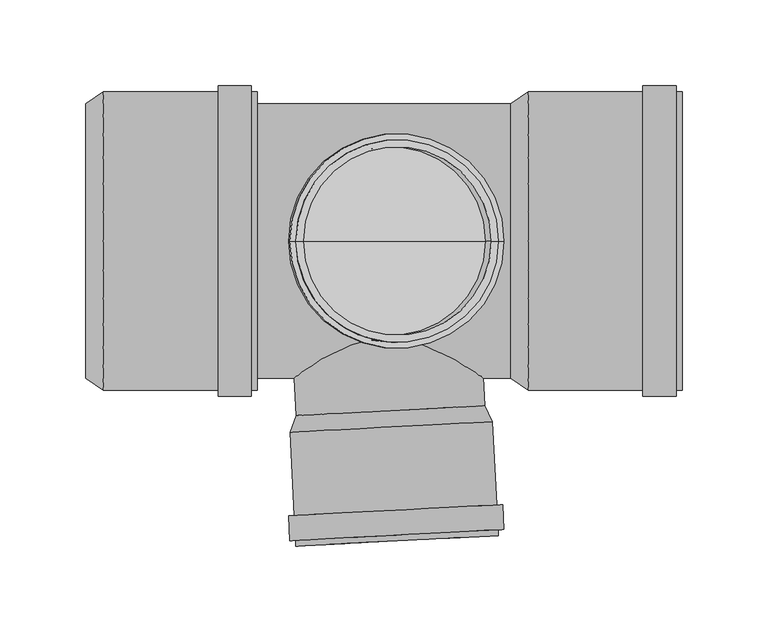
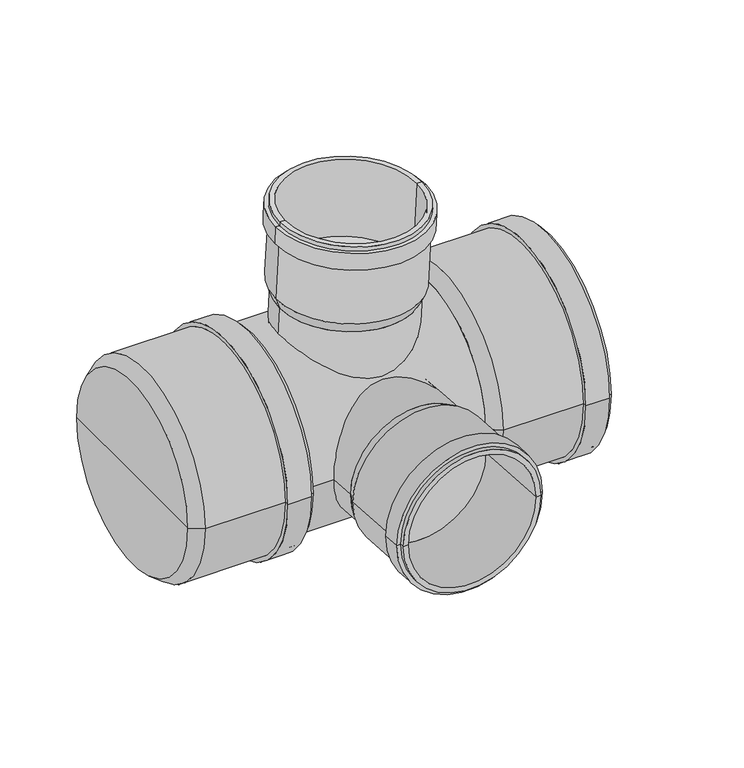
"""IFC4 building model written with IfcOpenShell, lengths in millimetres: pipe fitting geometry, pf_HTED : pf_HTED."""

from ifc_helpers import new_model, si_unit, point, frame, origin, origin_2d, place, context, project, spatial, polyline, circle_curve, trimmed, segment, composite_curve, outline, extrude, source, transform, mapped, element, save
from ifc_brep_helpers import plane_surface, cylinder_surface, revolved_surface, advanced_brep


def pipe_fitting_2de2056f(model_context):
    return source(origin(), model_context, "Body", "SolidModel", [
        advanced_brep(
        [(60.1058841, 0.0, 95.9858463), (-49.7433647, 0.0, 101.7428015), (-53.3405543, 0.0, 111.4443595), (64.6974568, 0.0, 105.2582495), (5.1812597, 0.0, 98.8643239), (68.1777978, 0.0, 171.6671136), (-49.8602132, 0.0, 177.8532236), (-45.7658321, 0.0, 177.6386462), (64.0834168, 0.0, 171.881691), (67.9998556, 0.0, 168.2717731), (-50.0381554, 0.0, 174.4578832), (71.395196, 0.0, 168.0938309), (-53.4334958, 0.0, 174.6358254), (70.6363246, 0.0, 153.6137026), (-54.1923672, 0.0, 160.1556972), (67.2409842, 0.0, 153.7916449), (-50.7970268, 0.0, 159.9777549), (60.6030757, 0.0, 105.4728269), (-49.2461732, 0.0, 111.2297821), (5.6784513, 0.0, 108.3513045)],
        [
            (0, 1, circle_curve(frame((5.1812597, 0.0, 98.8643239), z_axis=(0.052335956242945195, 0.0, 0.9986295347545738), x_axis=(-0.9986295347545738, 0.0, 0.052335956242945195)), 55.0)),
            (1, 2),
            (2, 3, circle_curve(frame((5.6784513, 0.0, 108.3513045), z_axis=(-0.052335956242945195, 0.0, -0.9986295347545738), x_axis=(-0.9986295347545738, 0.0, 0.052335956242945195)), 59.1)),
            (3, 0),
            (1, 0, circle_curve(frame((5.1812597, 0.0, 98.8643239), z_axis=(0.052335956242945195, 0.0, 0.9986295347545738), x_axis=(-0.9986295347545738, 0.0, 0.052335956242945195)), 55.0)),
            (3, 2, circle_curve(frame((5.6784513, 0.0, 108.3513045), z_axis=(-0.052335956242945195, 0.0, -0.9986295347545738), x_axis=(-0.9986295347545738, 0.0, 0.052335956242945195)), 59.1)),
            (4, 1),
            (0, 4),
            (5, 6, circle_curve(frame((9.1587923, 0.0, 174.7601686), z_axis=(0.052335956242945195, 0.0, 0.9986295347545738), x_axis=(-0.9986295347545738, 0.0, 0.052335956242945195)), 59.1)),
            (6, 7),
            (7, 8, circle_curve(frame((9.1587923, 0.0, 174.7601686), z_axis=(-0.052335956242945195, 0.0, -0.9986295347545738), x_axis=(-0.9986295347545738, 0.0, 0.052335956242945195)), 55.0)),
            (8, 5),
            (6, 5, circle_curve(frame((9.1587923, 0.0, 174.7601686), z_axis=(0.052335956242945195, 0.0, 0.9986295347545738), x_axis=(-0.9986295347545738, 0.0, 0.052335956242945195)), 59.1)),
            (8, 7, circle_curve(frame((9.1587923, 0.0, 174.7601686), z_axis=(-0.052335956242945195, 0.0, -0.9986295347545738), x_axis=(-0.9986295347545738, 0.0, 0.052335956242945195)), 55.0)),
            (9, 10, circle_curve(frame((8.9808501, 0.0, 171.3648282), z_axis=(0.052335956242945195, 0.0, 0.9986295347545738), x_axis=(-0.9986295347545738, 0.0, 0.052335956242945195)), 59.1)),
            (10, 6),
            (5, 9),
            (10, 9, circle_curve(frame((8.9808501, 0.0, 171.3648282), z_axis=(0.052335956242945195, 0.0, 0.9986295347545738), x_axis=(-0.9986295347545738, 0.0, 0.052335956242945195)), 59.1)),
            (11, 12, circle_curve(frame((8.9808501, 0.0, 171.3648282), z_axis=(0.052335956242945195, 0.0, 0.9986295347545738), x_axis=(-0.9986295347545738, 0.0, 0.052335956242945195)), 62.5)),
            (12, 10),
            (9, 11),
            (12, 11, circle_curve(frame((8.9808501, 0.0, 171.3648282), z_axis=(0.052335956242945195, 0.0, 0.9986295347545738), x_axis=(-0.9986295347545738, 0.0, 0.052335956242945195)), 62.5)),
            (13, 14, circle_curve(frame((8.2219787, 0.0, 156.8846999), z_axis=(0.052335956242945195, 0.0, 0.9986295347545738), x_axis=(-0.9986295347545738, 0.0, 0.052335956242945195)), 62.5)),
            (14, 12),
            (11, 13),
            (14, 13, circle_curve(frame((8.2219787, 0.0, 156.8846999), z_axis=(0.052335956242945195, 0.0, 0.9986295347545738), x_axis=(-0.9986295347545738, 0.0, 0.052335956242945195)), 62.5)),
            (15, 16, circle_curve(frame((8.2219787, 0.0, 156.8846999), z_axis=(0.052335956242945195, 0.0, 0.9986295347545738), x_axis=(-0.9986295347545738, 0.0, 0.052335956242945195)), 59.1)),
            (16, 14),
            (13, 15),
            (16, 15, circle_curve(frame((8.2219787, 0.0, 156.8846999), z_axis=(0.052335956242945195, 0.0, 0.9986295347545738), x_axis=(-0.9986295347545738, 0.0, 0.052335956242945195)), 59.1)),
            (2, 16),
            (15, 3),
            (17, 18, circle_curve(frame((5.6784513, 0.0, 108.3513045), z_axis=(0.052335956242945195, 0.0, 0.9986295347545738), x_axis=(-0.9986295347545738, 0.0, 0.052335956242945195)), 55.0)),
            (18, 19),
            (19, 17),
            (18, 17, circle_curve(frame((5.6784513, 0.0, 108.3513045), z_axis=(0.052335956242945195, 0.0, 0.9986295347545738), x_axis=(-0.9986295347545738, 0.0, 0.052335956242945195)), 55.0)),
            (7, 18),
            (17, 8),
        ],
        [
            revolved_surface(polyline([(-53.3405543, 0.0, 111.4443595), (-49.7433647, 0.0, 101.7428015)]), (5.1812597, 0.0, 98.8643239), (-0.052335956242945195, 0.0, -0.9986295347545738)),
            plane_surface(frame((5.1812597, 0.0, 98.8643239), z_axis=(-0.052335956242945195, 0.0, -0.9986295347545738), x_axis=(-0.9986295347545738, 0.0, 0.052335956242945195))),
            plane_surface(frame((9.1587923, 0.0, 174.7601686), z_axis=(0.052335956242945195, 0.0, 0.9986295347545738), x_axis=(-0.9986295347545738, 0.0, 0.052335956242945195))),
            cylinder_surface(frame((5.1812597, 0.0, 98.8643239), z_axis=(-0.052335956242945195, 0.0, -0.9986295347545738), x_axis=(-0.9986295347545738, 0.0, 0.052335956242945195)), 59.1),
            plane_surface(frame((8.9808501, 0.0, 171.3648282), z_axis=(0.052335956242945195, 0.0, 0.9986295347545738), x_axis=(-0.9986295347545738, 0.0, 0.052335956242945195))),
            cylinder_surface(frame((5.1812597, 0.0, 98.8643239), z_axis=(-0.052335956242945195, 0.0, -0.9986295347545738), x_axis=(-0.9986295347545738, 0.0, 0.052335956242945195)), 62.5),
            plane_surface(frame((8.2219787, 0.0, 156.8846999), z_axis=(-0.052335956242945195, 0.0, -0.9986295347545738), x_axis=(-0.9986295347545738, 0.0, 0.052335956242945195))),
            plane_surface(frame((5.6784513, 0.0, 108.3513045), z_axis=(0.052335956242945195, 0.0, 0.9986295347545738), x_axis=(-0.9986295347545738, 0.0, 0.052335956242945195))),
            revolved_surface(polyline([(-49.24617312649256, 0.0, 111.22978208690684), (-45.765832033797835, 0.0, 177.6386461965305)]), (5.1812597, 0.0, 98.8643239), (-0.052335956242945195, 0.0, -0.9986295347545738)),
        ],
        [
            (0, [[1, 2, 3, 4]]),
            (0, [[5, -4, 6, -2]]),
            (1, [[7, -1, 8]]),
            (1, [[-8, -5, -7]]),
            (2, [[9, 10, 11, 12]]),
            (2, [[13, -12, 14, -10]]),
            (3, [[15, 16, -9, 17]]),
            (3, [[18, -17, -13, -16]]),
            (4, [[19, 20, -15, 21]]),
            (4, [[22, -21, -18, -20]]),
            (5, [[23, 24, -19, 25]]),
            (5, [[26, -25, -22, -24]]),
            (6, [[27, 28, -23, 29]]),
            (6, [[30, -29, -26, -28]]),
            (3, [[-3, 31, -27, 32]]),
            (3, [[-6, -32, -30, -31]]),
            (7, [[33, 34, 35]]),
            (7, [[36, -35, -34]]),
            (8, [[-11, 37, -33, 38]]),
            (8, [[-14, -38, -36, -37]]),
        ],
    ),
        advanced_brep(
        [(-49.7433647, -101.7428015, 0.0), (60.1058841, -95.9858463, 0.0), (64.6974568, -105.2582495, 0.0), (-53.3405543, -111.4443595, 0.0), (5.1812597, -98.8643239, 0.0), (-49.8602132, -177.8532236, 0.0), (68.1777978, -171.6671136, 0.0), (64.0834168, -171.881691, 0.0), (-45.7658321, -177.6386462, 0.0), (-50.0381554, -174.4578832, 0.0), (67.9998556, -168.2717731, 0.0), (-53.4334958, -174.6358254, 0.0), (71.395196, -168.0938309, 0.0), (-54.1923672, -160.1556972, 0.0), (70.6363246, -153.6137026, 0.0), (-50.7970268, -159.9777549, 0.0), (67.2409842, -153.7916449, 0.0), (-49.2461732, -111.2297821, 0.0), (60.6030757, -105.4728269, 0.0), (5.6784513, -108.3513045, 0.0)],
        [
            (0, 1, circle_curve(frame((5.1812597, -98.8643239, 0.0), z_axis=(0.05233595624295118, -0.9986295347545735, 0.0), x_axis=(0.9986295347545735, 0.05233595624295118, 0.0)), 55.0)),
            (1, 2),
            (2, 3, circle_curve(frame((5.6784513, -108.3513045, 0.0), z_axis=(-0.05233595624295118, 0.9986295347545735, 0.0), x_axis=(0.9986295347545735, 0.05233595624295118, 0.0)), 59.1)),
            (3, 0),
            (1, 0, circle_curve(frame((5.1812597, -98.8643239, 0.0), z_axis=(0.05233595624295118, -0.9986295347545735, 0.0), x_axis=(0.9986295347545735, 0.05233595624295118, 0.0)), 55.0)),
            (3, 2, circle_curve(frame((5.6784513, -108.3513045, 0.0), z_axis=(-0.05233595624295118, 0.9986295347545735, 0.0), x_axis=(0.9986295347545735, 0.05233595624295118, 0.0)), 59.1)),
            (4, 1),
            (0, 4),
            (5, 6, circle_curve(frame((9.1587923, -174.7601686, 0.0), z_axis=(0.05233595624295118, -0.9986295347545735, 0.0), x_axis=(0.9986295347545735, 0.05233595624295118, 0.0)), 59.1)),
            (6, 7),
            (7, 8, circle_curve(frame((9.1587923, -174.7601686, 0.0), z_axis=(-0.05233595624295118, 0.9986295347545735, 0.0), x_axis=(0.9986295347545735, 0.05233595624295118, 0.0)), 55.0)),
            (8, 5),
            (6, 5, circle_curve(frame((9.1587923, -174.7601686, 0.0), z_axis=(0.05233595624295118, -0.9986295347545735, 0.0), x_axis=(0.9986295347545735, 0.05233595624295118, 0.0)), 59.1)),
            (8, 7, circle_curve(frame((9.1587923, -174.7601686, 0.0), z_axis=(-0.05233595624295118, 0.9986295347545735, 0.0), x_axis=(0.9986295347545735, 0.05233595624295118, 0.0)), 55.0)),
            (9, 10, circle_curve(frame((8.9808501, -171.3648282, 0.0), z_axis=(0.05233595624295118, -0.9986295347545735, 0.0), x_axis=(0.9986295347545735, 0.05233595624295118, 0.0)), 59.1)),
            (10, 6),
            (5, 9),
            (10, 9, circle_curve(frame((8.9808501, -171.3648282, 0.0), z_axis=(0.05233595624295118, -0.9986295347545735, 0.0), x_axis=(0.9986295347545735, 0.05233595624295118, 0.0)), 59.1)),
            (11, 12, circle_curve(frame((8.9808501, -171.3648282, 0.0), z_axis=(0.05233595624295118, -0.9986295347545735, 0.0), x_axis=(0.9986295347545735, 0.05233595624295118, 0.0)), 62.5)),
            (12, 10),
            (9, 11),
            (12, 11, circle_curve(frame((8.9808501, -171.3648282, 0.0), z_axis=(0.05233595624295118, -0.9986295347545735, 0.0), x_axis=(0.9986295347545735, 0.05233595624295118, 0.0)), 62.5)),
            (13, 14, circle_curve(frame((8.2219787, -156.8846999, 0.0), z_axis=(0.05233595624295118, -0.9986295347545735, 0.0), x_axis=(0.9986295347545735, 0.05233595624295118, 0.0)), 62.5)),
            (14, 12),
            (11, 13),
            (14, 13, circle_curve(frame((8.2219787, -156.8846999, 0.0), z_axis=(0.05233595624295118, -0.9986295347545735, 0.0), x_axis=(0.9986295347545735, 0.05233595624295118, 0.0)), 62.5)),
            (15, 16, circle_curve(frame((8.2219787, -156.8846999, 0.0), z_axis=(0.05233595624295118, -0.9986295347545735, 0.0), x_axis=(0.9986295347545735, 0.05233595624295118, 0.0)), 59.1)),
            (16, 14),
            (13, 15),
            (16, 15, circle_curve(frame((8.2219787, -156.8846999, 0.0), z_axis=(0.05233595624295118, -0.9986295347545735, 0.0), x_axis=(0.9986295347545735, 0.05233595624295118, 0.0)), 59.1)),
            (2, 16),
            (15, 3),
            (17, 18, circle_curve(frame((5.6784513, -108.3513045, 0.0), z_axis=(0.05233595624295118, -0.9986295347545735, 0.0), x_axis=(0.9986295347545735, 0.05233595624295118, 0.0)), 55.0)),
            (18, 19),
            (19, 17),
            (18, 17, circle_curve(frame((5.6784513, -108.3513045, 0.0), z_axis=(0.05233595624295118, -0.9986295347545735, 0.0), x_axis=(0.9986295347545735, 0.05233595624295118, 0.0)), 55.0)),
            (7, 18),
            (17, 8),
        ],
        [
            revolved_surface(polyline([(64.6974568, -105.2582495, 0.0), (60.1058841, -95.9858463, 0.0)]), (5.1812597, -98.8643239, 0.0), (-0.05233595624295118, 0.9986295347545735, 0.0)),
            plane_surface(frame((5.1812597, -98.8643239, 0.0), z_axis=(-0.05233595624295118, 0.9986295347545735, 0.0), x_axis=(0.9986295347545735, 0.05233595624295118, 0.0))),
            plane_surface(frame((9.1587923, -174.7601686, 0.0), z_axis=(0.05233595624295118, -0.9986295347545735, 0.0), x_axis=(0.9986295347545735, 0.05233595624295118, 0.0))),
            cylinder_surface(frame((5.1812597, -98.8643239, 0.0), z_axis=(-0.05233595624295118, 0.9986295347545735, 0.0), x_axis=(0.9986295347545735, 0.05233595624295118, 0.0)), 59.1),
            plane_surface(frame((8.9808501, -171.3648282, 0.0), z_axis=(0.05233595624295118, -0.9986295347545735, 0.0), x_axis=(0.9986295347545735, 0.05233595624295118, 0.0))),
            cylinder_surface(frame((5.1812597, -98.8643239, 0.0), z_axis=(-0.05233595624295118, 0.9986295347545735, 0.0), x_axis=(0.9986295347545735, 0.05233595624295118, 0.0)), 62.5),
            plane_surface(frame((8.2219787, -156.8846999, 0.0), z_axis=(-0.05233595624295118, 0.9986295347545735, 0.0), x_axis=(0.9986295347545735, 0.05233595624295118, 0.0))),
            plane_surface(frame((5.6784513, -108.3513045, 0.0), z_axis=(0.05233595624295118, -0.9986295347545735, 0.0), x_axis=(0.9986295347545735, 0.05233595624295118, 0.0))),
            revolved_surface(polyline([(60.60307569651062, -105.47282690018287, 0.0), (64.08341678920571, -171.88169100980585, 0.0)]), (5.1812597, -98.8643239, 0.0), (-0.05233595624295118, 0.9986295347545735, 0.0)),
        ],
        [
            (0, [[1, 2, 3, 4]]),
            (0, [[5, -4, 6, -2]]),
            (1, [[7, -1, 8]]),
            (1, [[-8, -5, -7]]),
            (2, [[9, 10, 11, 12]]),
            (2, [[13, -12, 14, -10]]),
            (3, [[15, 16, -9, 17]]),
            (3, [[18, -17, -13, -16]]),
            (4, [[19, 20, -15, 21]]),
            (4, [[22, -21, -18, -20]]),
            (5, [[23, 24, -19, 25]]),
            (5, [[26, -25, -22, -24]]),
            (6, [[27, 28, -23, 29]]),
            (6, [[30, -29, -26, -28]]),
            (3, [[-3, 31, -27, 32]]),
            (3, [[-6, -32, -30, -31]]),
            (7, [[33, 34, 35]]),
            (7, [[36, -35, -34]]),
            (8, [[-11, 37, -33, 38]]),
            (8, [[-14, -38, -36, -37]]),
        ],
    ),
        advanced_brep(
        [(75.3, -80.0, 0.0), (75.3, 80.0, 0.0), (85.6, 87.1, 0.0), (85.6, -87.1, 0.0), (75.3, 0.0, 0.0), (175.3, -87.1, 0.0), (175.3, 87.1, 0.0), (175.3, 80.0, 0.0), (175.3, -80.0, 0.0), (171.9, -87.1, 0.0), (171.9, 87.1, 0.0), (171.9, -90.5, 0.0), (171.9, 90.5, 0.0), (152.4, -90.5, 0.0), (152.4, 90.5, 0.0), (152.4, -87.1, 0.0), (152.4, 87.1, 0.0), (85.6, -80.0, 0.0), (85.6, 80.0, 0.0), (85.6, 0.0, 0.0)],
        [
            (0, 1, circle_curve(frame((75.3, 0.0, 0.0), z_axis=(1.0, 0.0, 0.0), x_axis=(0.0, 1.0, 0.0)), 80.0)),
            (1, 2),
            (2, 3, circle_curve(frame((85.6, 0.0, 0.0), z_axis=(-1.0, 0.0, 0.0), x_axis=(0.0, 1.0, 0.0)), 87.1)),
            (3, 0),
            (1, 0, circle_curve(frame((75.3, 0.0, 0.0), z_axis=(1.0, 0.0, 0.0), x_axis=(0.0, 1.0, 0.0)), 80.0)),
            (3, 2, circle_curve(frame((85.6, 0.0, 0.0), z_axis=(-1.0, 0.0, 0.0), x_axis=(0.0, 1.0, 0.0)), 87.1)),
            (4, 1),
            (0, 4),
            (5, 6, circle_curve(frame((175.3, 0.0, 0.0), z_axis=(1.0, 0.0, 0.0), x_axis=(0.0, 1.0, 0.0)), 87.1)),
            (6, 7),
            (7, 8, circle_curve(frame((175.3, 0.0, 0.0), z_axis=(-1.0, 0.0, 0.0), x_axis=(0.0, 1.0, 0.0)), 80.0)),
            (8, 5),
            (6, 5, circle_curve(frame((175.3, 0.0, 0.0), z_axis=(1.0, 0.0, 0.0), x_axis=(0.0, 1.0, 0.0)), 87.1)),
            (8, 7, circle_curve(frame((175.3, 0.0, 0.0), z_axis=(-1.0, 0.0, 0.0), x_axis=(0.0, 1.0, 0.0)), 80.0)),
            (9, 10, circle_curve(frame((171.9, 0.0, 0.0), z_axis=(1.0, 0.0, 0.0), x_axis=(0.0, 1.0, 0.0)), 87.1)),
            (10, 6),
            (5, 9),
            (10, 9, circle_curve(frame((171.9, 0.0, 0.0), z_axis=(1.0, 0.0, 0.0), x_axis=(0.0, 1.0, 0.0)), 87.1)),
            (11, 12, circle_curve(frame((171.9, 0.0, 0.0), z_axis=(1.0, 0.0, 0.0), x_axis=(0.0, 1.0, 0.0)), 90.5)),
            (12, 10),
            (9, 11),
            (12, 11, circle_curve(frame((171.9, 0.0, 0.0), z_axis=(1.0, 0.0, 0.0), x_axis=(0.0, 1.0, 0.0)), 90.5)),
            (13, 14, circle_curve(frame((152.4, 0.0, 0.0), z_axis=(1.0, 0.0, 0.0), x_axis=(0.0, 1.0, 0.0)), 90.5)),
            (14, 12),
            (11, 13),
            (14, 13, circle_curve(frame((152.4, 0.0, 0.0), z_axis=(1.0, 0.0, 0.0), x_axis=(0.0, 1.0, 0.0)), 90.5)),
            (15, 16, circle_curve(frame((152.4, 0.0, 0.0), z_axis=(1.0, 0.0, 0.0), x_axis=(0.0, 1.0, 0.0)), 87.1)),
            (16, 14),
            (13, 15),
            (16, 15, circle_curve(frame((152.4, 0.0, 0.0), z_axis=(1.0, 0.0, 0.0), x_axis=(0.0, 1.0, 0.0)), 87.1)),
            (2, 16),
            (15, 3),
            (17, 18, circle_curve(frame((85.6, 0.0, 0.0), z_axis=(1.0, 0.0, 0.0), x_axis=(0.0, 1.0, 0.0)), 80.0)),
            (18, 19),
            (19, 17),
            (18, 17, circle_curve(frame((85.6, 0.0, 0.0), z_axis=(1.0, 0.0, 0.0), x_axis=(0.0, 1.0, 0.0)), 80.0)),
            (7, 18),
            (17, 8),
        ],
        [
            revolved_surface(polyline([(85.6, 87.1, 0.0), (75.3, 80.0, 0.0)]), (75.3, 0.0, 0.0), (-1.0, 0.0, 0.0)),
            plane_surface(frame((75.3, 0.0, 0.0), z_axis=(-1.0, 0.0, 0.0), x_axis=(0.0, 1.0, 0.0))),
            plane_surface(frame((175.3, 0.0, 0.0), z_axis=(1.0, 0.0, 0.0), x_axis=(0.0, 1.0, 0.0))),
            cylinder_surface(frame((75.3, 0.0, 0.0), z_axis=(-1.0, 0.0, 0.0), x_axis=(0.0, 1.0, 0.0)), 87.1),
            plane_surface(frame((171.9, 0.0, 0.0), z_axis=(1.0, 0.0, 0.0), x_axis=(0.0, 1.0, 0.0))),
            cylinder_surface(frame((75.3, 0.0, 0.0), z_axis=(-1.0, 0.0, 0.0), x_axis=(0.0, 1.0, 0.0)), 90.5),
            plane_surface(frame((152.4, 0.0, 0.0), z_axis=(-1.0, 0.0, 0.0), x_axis=(0.0, 1.0, 0.0))),
            plane_surface(frame((85.6, 0.0, 0.0), z_axis=(1.0, 0.0, 0.0), x_axis=(0.0, 1.0, 0.0))),
            revolved_surface(polyline([(85.6, 80.0, 0.0), (175.3, 80.0, 0.0)]), (75.3, 0.0, 0.0), (-1.0, 0.0, 0.0)),
        ],
        [
            (0, [[1, 2, 3, 4]]),
            (0, [[5, -4, 6, -2]]),
            (1, [[7, -1, 8]]),
            (1, [[-8, -5, -7]]),
            (2, [[9, 10, 11, 12]]),
            (2, [[13, -12, 14, -10]]),
            (3, [[15, 16, -9, 17]]),
            (3, [[18, -17, -13, -16]]),
            (4, [[19, 20, -15, 21]]),
            (4, [[22, -21, -18, -20]]),
            (5, [[23, 24, -19, 25]]),
            (5, [[26, -25, -22, -24]]),
            (6, [[27, 28, -23, 29]]),
            (6, [[30, -29, -26, -28]]),
            (3, [[-3, 31, -27, 32]]),
            (3, [[-6, -32, -30, -31]]),
            (7, [[33, 34, 35]]),
            (7, [[36, -35, -34]]),
            (8, [[-11, 37, -33, 38]]),
            (8, [[-14, -38, -36, -37]]),
        ],
    ),
        advanced_brep(
        [(-172.4, -80.0, 0.0), (-172.4, 80.0, 0.0), (-162.1, 87.1, 0.0), (-162.1, -87.1, 0.0), (-172.4, 0.0, 0.0), (-72.4, -87.1, 0.0), (-72.4, 87.1, 0.0), (-72.4, 80.0, 0.0), (-72.4, -80.0, 0.0), (-75.8, -87.1, 0.0), (-75.8, 87.1, 0.0), (-75.8, -90.5, 0.0), (-75.8, 90.5, 0.0), (-95.3, -90.5, 0.0), (-95.3, 90.5, 0.0), (-95.3, -87.1, 0.0), (-95.3, 87.1, 0.0), (-162.1, -80.0, 0.0), (-162.1, 80.0, 0.0), (-162.1, 0.0, 0.0)],
        [
            (0, 1, circle_curve(frame((-172.4, 0.0, 0.0), z_axis=(1.0, 0.0, 0.0), x_axis=(0.0, 1.0, 0.0)), 80.0)),
            (1, 2),
            (2, 3, circle_curve(frame((-162.1, 0.0, 0.0), z_axis=(-1.0, 0.0, 0.0), x_axis=(0.0, 1.0, 0.0)), 87.1)),
            (3, 0),
            (1, 0, circle_curve(frame((-172.4, 0.0, 0.0), z_axis=(1.0, 0.0, 0.0), x_axis=(0.0, 1.0, 0.0)), 80.0)),
            (3, 2, circle_curve(frame((-162.1, 0.0, 0.0), z_axis=(-1.0, 0.0, 0.0), x_axis=(0.0, 1.0, 0.0)), 87.1)),
            (4, 1),
            (0, 4),
            (5, 6, circle_curve(frame((-72.4, 0.0, 0.0), z_axis=(1.0, 0.0, 0.0), x_axis=(0.0, 1.0, 0.0)), 87.1)),
            (6, 7),
            (7, 8, circle_curve(frame((-72.4, 0.0, 0.0), z_axis=(-1.0, 0.0, 0.0), x_axis=(0.0, 1.0, 0.0)), 80.0)),
            (8, 5),
            (6, 5, circle_curve(frame((-72.4, 0.0, 0.0), z_axis=(1.0, 0.0, 0.0), x_axis=(0.0, 1.0, 0.0)), 87.1)),
            (8, 7, circle_curve(frame((-72.4, 0.0, 0.0), z_axis=(-1.0, 0.0, 0.0), x_axis=(0.0, 1.0, 0.0)), 80.0)),
            (9, 10, circle_curve(frame((-75.8, 0.0, 0.0), z_axis=(1.0, 0.0, 0.0), x_axis=(0.0, 1.0, 0.0)), 87.1)),
            (10, 6),
            (5, 9),
            (10, 9, circle_curve(frame((-75.8, 0.0, 0.0), z_axis=(1.0, 0.0, 0.0), x_axis=(0.0, 1.0, 0.0)), 87.1)),
            (11, 12, circle_curve(frame((-75.8, 0.0, 0.0), z_axis=(1.0, 0.0, 0.0), x_axis=(0.0, 1.0, 0.0)), 90.5)),
            (12, 10),
            (9, 11),
            (12, 11, circle_curve(frame((-75.8, 0.0, 0.0), z_axis=(1.0, 0.0, 0.0), x_axis=(0.0, 1.0, 0.0)), 90.5)),
            (13, 14, circle_curve(frame((-95.3, 0.0, 0.0), z_axis=(1.0, 0.0, 0.0), x_axis=(0.0, 1.0, 0.0)), 90.5)),
            (14, 12),
            (11, 13),
            (14, 13, circle_curve(frame((-95.3, 0.0, 0.0), z_axis=(1.0, 0.0, 0.0), x_axis=(0.0, 1.0, 0.0)), 90.5)),
            (15, 16, circle_curve(frame((-95.3, 0.0, 0.0), z_axis=(1.0, 0.0, 0.0), x_axis=(0.0, 1.0, 0.0)), 87.1)),
            (16, 14),
            (13, 15),
            (16, 15, circle_curve(frame((-95.3, 0.0, 0.0), z_axis=(1.0, 0.0, 0.0), x_axis=(0.0, 1.0, 0.0)), 87.1)),
            (2, 16),
            (15, 3),
            (17, 18, circle_curve(frame((-162.1, 0.0, 0.0), z_axis=(1.0, 0.0, 0.0), x_axis=(0.0, 1.0, 0.0)), 80.0)),
            (18, 19),
            (19, 17),
            (18, 17, circle_curve(frame((-162.1, 0.0, 0.0), z_axis=(1.0, 0.0, 0.0), x_axis=(0.0, 1.0, 0.0)), 80.0)),
            (7, 18),
            (17, 8),
        ],
        [
            revolved_surface(polyline([(-162.1, 87.1, 0.0), (-172.4, 80.0, 0.0)]), (-172.4, 0.0, 0.0), (-1.0, 0.0, 0.0)),
            plane_surface(frame((-172.4, 0.0, 0.0), z_axis=(-1.0, 0.0, 0.0), x_axis=(0.0, 1.0, 0.0))),
            plane_surface(frame((-72.4, 0.0, 0.0), z_axis=(1.0, 0.0, 0.0), x_axis=(0.0, 1.0, 0.0))),
            cylinder_surface(frame((-172.4, 0.0, 0.0), z_axis=(-1.0, 0.0, 0.0), x_axis=(0.0, 1.0, 0.0)), 87.1),
            plane_surface(frame((-75.8, 0.0, 0.0), z_axis=(1.0, 0.0, 0.0), x_axis=(0.0, 1.0, 0.0))),
            cylinder_surface(frame((-172.4, 0.0, 0.0), z_axis=(-1.0, 0.0, 0.0), x_axis=(0.0, 1.0, 0.0)), 90.5),
            plane_surface(frame((-95.3, 0.0, 0.0), z_axis=(-1.0, 0.0, 0.0), x_axis=(0.0, 1.0, 0.0))),
            plane_surface(frame((-162.1, 0.0, 0.0), z_axis=(1.0, 0.0, 0.0), x_axis=(0.0, 1.0, 0.0))),
            revolved_surface(polyline([(-162.1, 80.0, 0.0), (-72.4, 80.0, 0.0)]), (-172.4, 0.0, 0.0), (-1.0, 0.0, 0.0)),
        ],
        [
            (0, [[1, 2, 3, 4]]),
            (0, [[5, -4, 6, -2]]),
            (1, [[7, -1, 8]]),
            (1, [[-8, -5, -7]]),
            (2, [[9, 10, 11, 12]]),
            (2, [[13, -12, 14, -10]]),
            (3, [[15, 16, -9, 17]]),
            (3, [[18, -17, -13, -16]]),
            (4, [[19, 20, -15, 21]]),
            (4, [[22, -21, -18, -20]]),
            (5, [[23, 24, -19, 25]]),
            (5, [[26, -25, -22, -24]]),
            (6, [[27, 28, -23, 29]]),
            (6, [[30, -29, -26, -28]]),
            (3, [[-3, 31, -27, 32]]),
            (3, [[-6, -32, -30, -31]]),
            (7, [[33, 34, 35]]),
            (7, [[36, -35, -34]]),
            (8, [[-11, 37, -33, 38]]),
            (8, [[-14, -38, -36, -37]]),
        ],
    ),
        extrude(outline(composite_curve([segment(trimmed(circle_curve(origin_2d(), 55.0), [point((0.0, 55.0))], [point((0.0, -55.0))], False, "CARTESIAN"), True, "CONTINUOUS"), segment(trimmed(circle_curve(origin_2d(), 55.0), [point((0.0, -55.0))], [point((0.0, 55.0))], False, "CARTESIAN"), True, "CONTINUOUS")], self_intersect=False)), frame((0.0, 0.0, 0.0), z_axis=(0.05233595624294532, 0.0, 0.9986295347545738), x_axis=(0.0, -1.0, 0.0)), (0.0, 0.0, 1.0), 99.0),
        extrude(outline(composite_curve([segment(trimmed(circle_curve(origin_2d(), 55.0), [point((0.0, -55.0))], [point((0.0, 55.0))], False, "CARTESIAN"), True, "CONTINUOUS"), segment(trimmed(circle_curve(origin_2d(), 55.0), [point((0.0, 55.0))], [point((0.0, -55.0))], False, "CARTESIAN"), True, "CONTINUOUS")], self_intersect=False)), frame((5.1812597, -98.8643239, 0.0), z_axis=(-0.05233595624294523, 0.9986295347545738, 0.0), x_axis=(0.0, 0.0, 1.0)), (0.0, 0.0, 1.0), 99.0),
        extrude(outline(composite_curve([segment(trimmed(circle_curve(origin_2d(), 80.0), [point((-80.0, 0.0))], [point((80.0, 0.0))], False, "CARTESIAN"), True, "CONTINUOUS"), segment(trimmed(circle_curve(origin_2d(), 80.0), [point((80.0, 0.0))], [point((-80.0, 0.0))], False, "CARTESIAN"), True, "CONTINUOUS")], self_intersect=False)), frame((-162.1, 0.0, 0.0), z_axis=(1.0, 0.0, 0.0), x_axis=(0.0, 1.0, 0.0)), (0.0, 0.0, 1.0), 237.4),
    ])


if __name__ == "__main__":
    model = new_model("IFC4")
    model_context = context("Model", 3, world=origin())
    ifc_project = project(units=[si_unit("LENGTHUNIT", "METRE", prefix="MILLI")], contexts=[model_context])
    site = spatial("IfcSite", under=ifc_project)
    building = spatial("IfcBuilding", under=site)
    placement = place(None, origin())
    pipe_fitting_shape = pipe_fitting_2de2056f(model_context)
    element("IfcPipeFitting", 1, ObjectType="pf_HTED : pf_HTED", at=placement, inside=building, context=model_context, shape_type="MappedRepresentation", body=[
        mapped(pipe_fitting_shape, transform((0.0, 0.0, 0.0), x_axis=(1.0, 0.0, 0.0), y_axis=(0.0, 1.0, 0.0), z_axis=(0.0, 0.0, 1.0))),
    ])
    save(model, "model.ifc")
